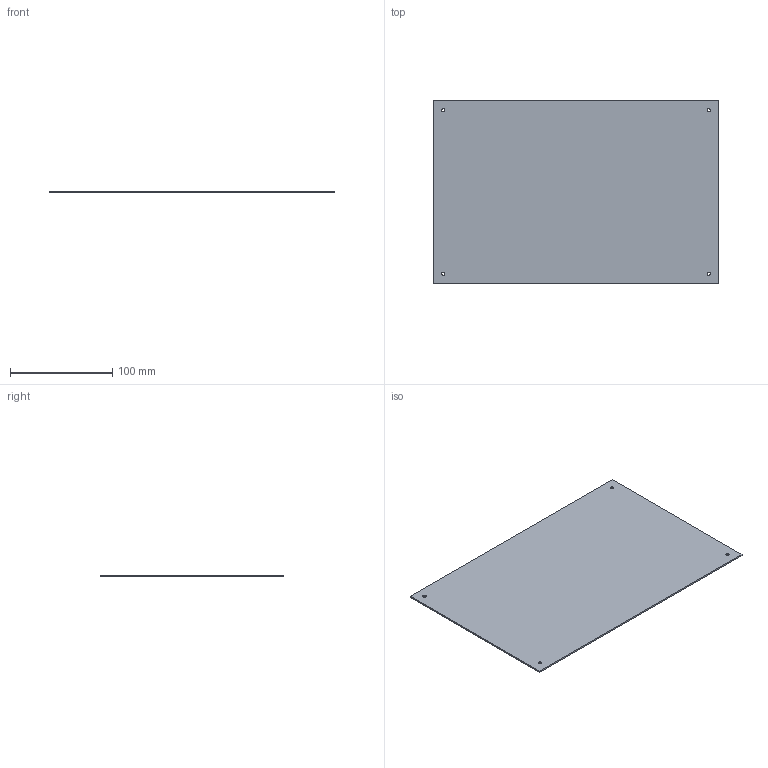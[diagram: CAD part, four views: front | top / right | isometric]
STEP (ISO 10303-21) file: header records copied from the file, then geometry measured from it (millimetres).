
FILE_DESCRIPTION(('KiCad electronic assembly'),'2;1');
FILE_NAME('board.step','2026-08-09T14:46:57',('Pcbnew'),('Kicad'), 'Open CASCADE STEP processor 7.9','KiCad to STEP converter','Unknown' );
FILE_SCHEMA(('AUTOMOTIVE_DESIGN { 1 0 10303 214 1 1 1 1 }'));
Length unit declared in the file: millimetre
Products named in the file (2): board 1; student_14_5_PCB
Assembly tree (1 placements, depth 2):
  board 1
    student_14_5_PCB
Bounding box: 280 x 180 x 1.51 mm (x, y, z)
Volume: 76055.4 mm3; surface area: 102185.6 mm2
Topology: 1 solids, 1 shells, 10 faces, 24 edges, 16 vertices
Faces by surface type: plane 6, cylinder 4
Full cylindrical faces by diameter (mm): 3.2 x4
Entity records: 349 total; most frequent: DIRECTION 56, CARTESIAN_POINT 52, ORIENTED_EDGE 48, EDGE_CURVE 24, AXIS2_PLACEMENT_3D 20, FACE_BOUND 18, EDGE_LOOP 18, VERTEX_POINT 16
